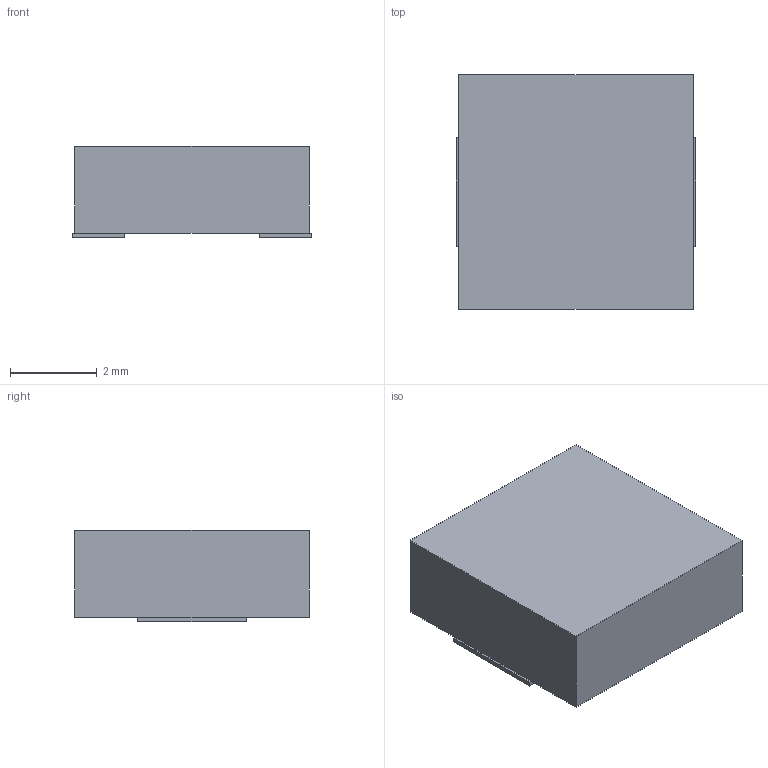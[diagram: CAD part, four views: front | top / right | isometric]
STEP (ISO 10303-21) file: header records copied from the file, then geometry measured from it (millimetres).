
FILE_DESCRIPTION(('FreeCAD Model'),'2;1');
FILE_NAME('/var/www/3D/0T/11828071.1.3.stp','2020-05-02T14:17:10',( 'Author'),(''),'Open CASCADE STEP processor 6.9','FreeCAD','Unknown' );
FILE_SCHEMA(('AUTOMOTIVE_DESIGN { 1 0 10303 214 1 1 1 1 }'));
Length unit declared in the file: millimetre
Products named in the file (3): ASSEMBLY; Body; Pins
Assembly tree (2 placements, depth 2):
  ASSEMBLY
    Body
    Pins
Bounding box: 5.5 x 5.4 x 2.1 mm (x, y, z)
Volume: 58.9 mm3; surface area: 115 mm2
Topology: 3 solids, 3 shells, 18 faces, 36 edges, 24 vertices
Faces by surface type: plane 18
Entity records: 1001 total; most frequent: CARTESIAN_POINT 153, DIRECTION 150, LINE 108, VECTOR 108, ORIENTED_EDGE 72, PCURVE 72, DEFINITIONAL_REPRESENTATION 72, EDGE_CURVE 36
